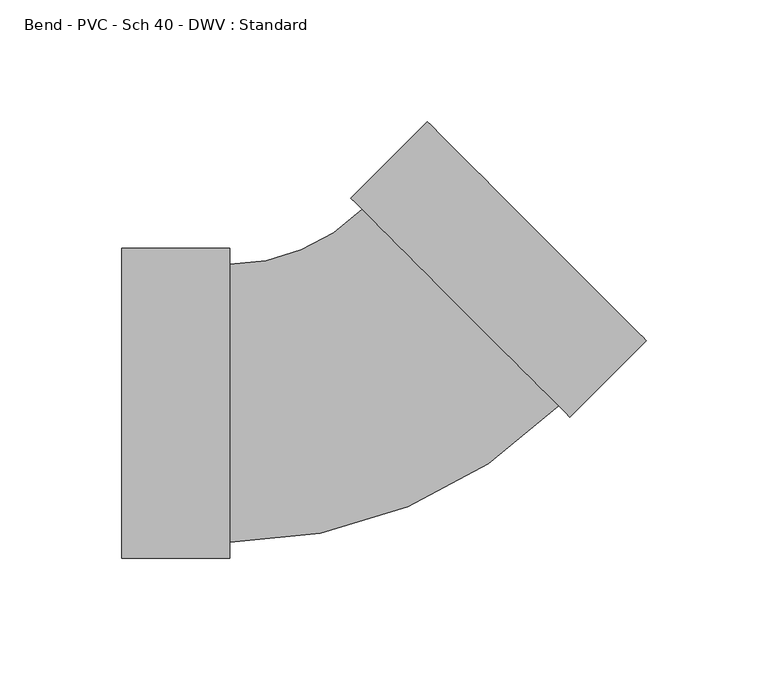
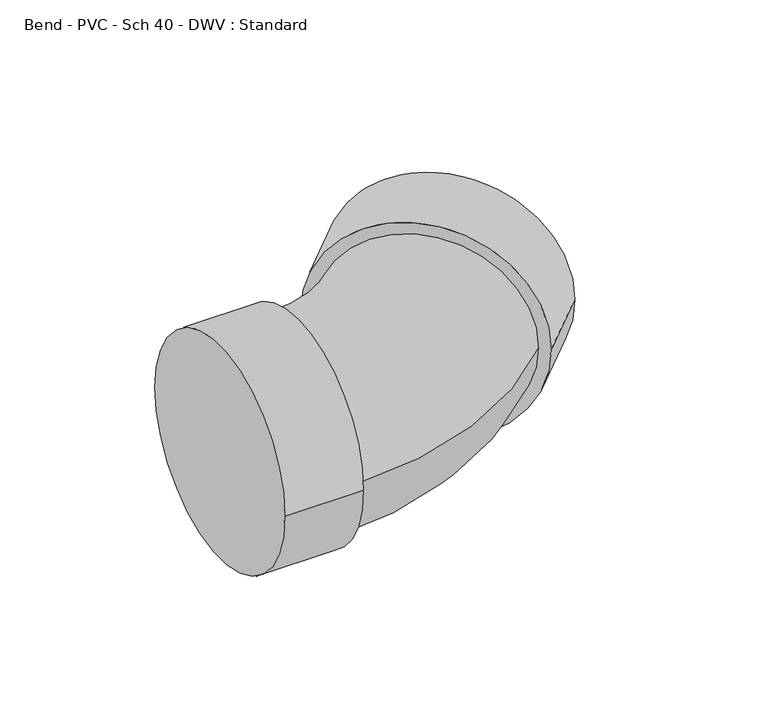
"""IFC4 building model written with IfcOpenShell, lengths in millimetres: pipe fitting geometry, Bend - PVC - Sch 40 - DWV : Standard."""

from ifc_helpers import new_model, si_unit, point, frame, origin, place, context, project, spatial, circle_curve, ellipse_curve, trimmed, source, transform, mapped, element, save
from ifc_brep_helpers import plane_surface, cylinder_surface, revolved_surface, advanced_brep


def bend_pvc_sch_40_dwv_standard_e1d401b7(model_context):
    return source(origin(), model_context, "Body", "AdvancedBrep", [
        advanced_brep(
        [(-100.0252, -63.754, 0.0), (-100.0252, 63.754, 0.0), (-55.5752, -63.754, 0.0), (-55.5752, 63.754, 0.0), (-55.5752, -57.15, 0.0), (-55.5752, 57.15, 0.0), (-1.1056616, 79.7088632, 0.0), (79.7086427, -1.121442, 0.0), (84.3779136, -5.7916374, 0.0), (-5.7749325, 84.3790586, 0.0), (115.8119212, 25.6361476, 0.0), (25.6590751, 115.8068436, 0.0)],
        [
            (0, 1, circle_curve(frame((-100.0252, 0.0, 0.0), z_axis=(-1.0, 0.0, 0.0), x_axis=(0.0, 1.0, 0.0)), 63.754)),
            (1, 0, circle_curve(frame((-100.0252, 0.0, 0.0), z_axis=(-1.0, 0.0, 0.0), x_axis=(0.0, 1.0, 0.0)), 63.754)),
            (2, 3, circle_curve(frame((-55.5752, 0.0, 0.0), z_axis=(1.0, 0.0, 0.0), x_axis=(0.0, 1.0, 0.0)), 63.754)),
            (3, 2, circle_curve(frame((-55.5752, 0.0, 0.0), z_axis=(1.0, 0.0, 0.0), x_axis=(0.0, 1.0, 0.0)), 63.754)),
            (4, 5, circle_curve(frame((-55.5752, 0.0, 0.0), z_axis=(-1.0, 0.0, 0.0), x_axis=(0.0, 1.0, 0.0)), 57.15)),
            (5, 4, circle_curve(frame((-55.5752, 0.0, 0.0), z_axis=(-1.0, 0.0, 0.0), x_axis=(0.0, 1.0, 0.0)), 57.15)),
            (0, 2),
            (3, 1),
            (6, 5, circle_curve(frame((-55.5752, 134.1891863, 0.0), z_axis=(0.0, 0.0, -1.0), x_axis=(0.0, -1.0, 0.0)), 77.0391863)),
            (4, 7, circle_curve(frame((-55.5752, 134.1891863, 0.0), z_axis=(0.0, 0.0, 1.0), x_axis=(0.0, -1.0, 0.0)), 191.3391863)),
            (7, 6, circle_curve(frame((39.3014906, 39.2937106, 0.0), z_axis=(-0.707176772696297, -0.7070367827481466, 0.0), x_axis=(-0.7070367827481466, 0.707176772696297, 0.0)), 57.15)),
            (6, 7, circle_curve(frame((39.3014906, 39.2937106, 0.0), z_axis=(-0.707176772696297, -0.7070367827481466, 0.0), x_axis=(-0.7070367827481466, 0.707176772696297, 0.0)), 57.15)),
            (8, 9, circle_curve(frame((39.3014906, 39.2937106, 0.0), z_axis=(-0.7071767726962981, -0.7070367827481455, 0.0), x_axis=(-0.7070367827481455, 0.7071767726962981, 0.0)), 63.754)),
            (9, 8, circle_curve(frame((39.3014906, 39.2937106, 0.0), z_axis=(-0.7071767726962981, -0.7070367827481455, 0.0), x_axis=(-0.7070367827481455, 0.7071767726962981, 0.0)), 63.754)),
            (10, 11, circle_curve(frame((70.7354981, 70.7214956, 0.0), z_axis=(0.7071767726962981, 0.7070367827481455, 0.0), x_axis=(-0.7070367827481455, 0.7071767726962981, 0.0)), 63.754)),
            (11, 10, circle_curve(frame((70.7354981, 70.7214956, 0.0), z_axis=(0.7071767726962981, 0.7070367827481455, 0.0), x_axis=(-0.7070367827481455, 0.7071767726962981, 0.0)), 63.754)),
            (8, 10),
            (11, 9),
        ],
        [
            plane_surface(frame((-100.0252, 0.0, 0.0), z_axis=(-1.0, 0.0, 0.0), x_axis=(0.0, 0.0, 1.0))),
            plane_surface(frame((-55.5752, 0.0, 0.0), z_axis=(1.0, 0.0, 0.0), x_axis=(0.0, 0.0, 1.0))),
            cylinder_surface(frame((-100.0252, 0.0, 0.0), z_axis=(-1.0, 0.0, 0.0), x_axis=(0.0, 1.0, 0.0)), 63.754),
            revolved_surface(trimmed(ellipse_curve(frame((-55.5752, 0.0, 0.0), z_axis=(-1.0, 0.0, 0.0), x_axis=(0.0, 1.0, 0.0)), 57.15, 57.15), [point((-55.5752, -57.15, 0.0))], [point((-55.5752, 57.15, 0.0))], True, "CARTESIAN"), (-55.5752, 134.1891863, 0.0), (0.0, 0.0, 1.0)),
            revolved_surface(trimmed(ellipse_curve(frame((-55.5752, 0.0, 0.0), z_axis=(-1.0, 0.0, 0.0), x_axis=(0.0, 1.0, 0.0)), 57.15, 57.15), [point((-55.5752, 57.15, 0.0))], [point((-55.5752, -57.15, 0.0))], True, "CARTESIAN"), (-55.5752, 134.1891863, 0.0), (0.0, 0.0, 1.0)),
            plane_surface(frame((39.3014906, 39.2937106, 0.0), z_axis=(-0.7071767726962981, -0.7070367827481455, 0.0), x_axis=(0.0, 0.0, 1.0))),
            plane_surface(frame((70.7354981, 70.7214956, 0.0), z_axis=(0.7071767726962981, 0.7070367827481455, 0.0), x_axis=(0.0, 0.0, 1.0))),
            cylinder_surface(frame((39.3014906, 39.2937106, 0.0), z_axis=(-0.7071767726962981, -0.7070367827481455, 0.0), x_axis=(-0.7070367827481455, 0.7071767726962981, 0.0)), 63.754),
        ],
        [
            (0, [[1, 2]]),
            (1, [[3, 4], [5, 6]]),
            (2, [[-1, 7, -4, 8]]),
            (2, [[-2, -8, -3, -7]]),
            (3, [[9, -5, 10, 11]]),
            (4, [[-9, 12, -10, -6]]),
            (5, [[13, 14], [-11, -12]]),
            (6, [[15, 16]]),
            (7, [[-13, 17, -16, 18]]),
            (7, [[-14, -18, -15, -17]]),
        ],
    ),
    ])


if __name__ == "__main__":
    model = new_model("IFC4")
    model_context = context("Model", 3, world=origin())
    ifc_project = project(units=[si_unit("LENGTHUNIT", "METRE", prefix="MILLI")], contexts=[model_context])
    site = spatial("IfcSite", under=ifc_project)
    building = spatial("IfcBuilding", under=site)
    placement = place(None, origin())
    bend_pvc_sch_40_dwv_standard_shape = bend_pvc_sch_40_dwv_standard_e1d401b7(model_context)
    element("IfcPipeFitting", 1, ObjectType="Bend - PVC - Sch 40 - DWV : Standard", at=placement, inside=building, context=model_context, shape_type="MappedRepresentation", body=[
        mapped(bend_pvc_sch_40_dwv_standard_shape, transform((0.0, 0.0, 0.0), x_axis=(1.0, 0.0, 0.0), y_axis=(0.0, 1.0, 0.0), z_axis=(0.0, 0.0, 1.0))),
    ])
    save(model, "model.ifc")
